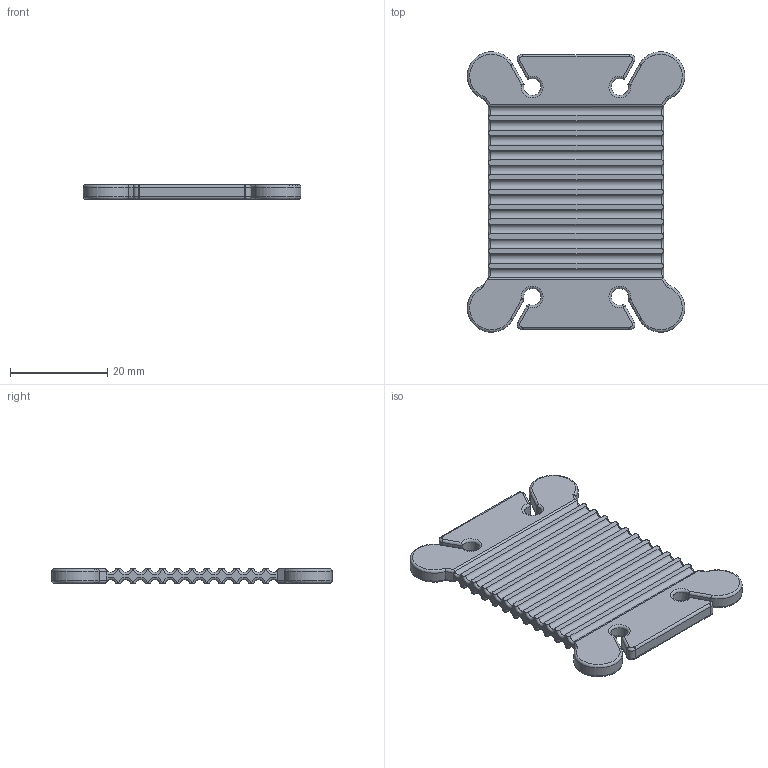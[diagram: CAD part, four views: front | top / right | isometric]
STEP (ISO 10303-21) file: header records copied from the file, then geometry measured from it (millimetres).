
FILE_DESCRIPTION(/* description */ (''),/* implementation_level */ '2;1');
FILE_NAME(/* name */ '/var/folders/z9/25d6t_754lxbntztd72t75480000gn/T/com.autodesk.mas.fusion360/Neutron/4102da8c-883b-4f1b-a283-cbb71031fa32.stp',/* time_stamp */ '2017-08-27T20:25:08+02:00',/* author */ (''),/* organization */ (''),/* preprocessor_version */ 'ST-DEVELOPER v16.13',/* originating_system */ 'Autodesk Translation Framework v6.1.1.50',/* authorisation */ '');
FILE_SCHEMA (('AUTOMOTIVE_DESIGN { 1 0 10303 214 3 1 1 }'));
Length unit declared in the file: millimetre
Products named in the file (1): twister v1
Bounding box: 44.75 x 57.72 x 3 mm (x, y, z)
Volume: 5355.1 mm3; surface area: 5483.3 mm2
Topology: 1 solids, 1 shells, 199 faces, 524 edges, 327 vertices
Faces by surface type: cylinder 73, torus 68, plane 42, bspline 8, sphere 8
Entity records: 6923 total; most frequent: CARTESIAN_POINT 1960, DIRECTION 1089, ORIENTED_EDGE 1048, EDGE_CURVE 524, AXIS2_PLACEMENT_3D 452, VERTEX_POINT 327, CIRCLE 200, FACE_OUTER_BOUND 199
